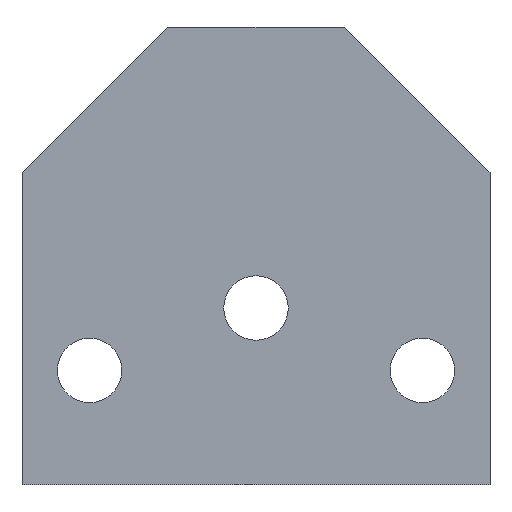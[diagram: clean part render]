
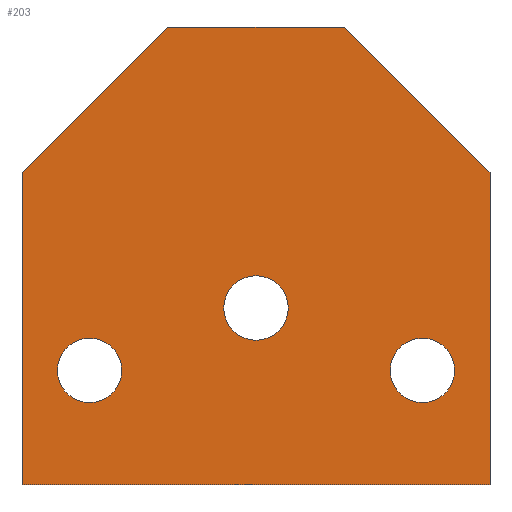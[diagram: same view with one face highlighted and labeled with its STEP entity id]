
A CAD part, front view. The second image highlights one B-rep face of the part: STEP entity #203.
In plain terms, the highlighted planar face has unit normal (0, -1, 0).
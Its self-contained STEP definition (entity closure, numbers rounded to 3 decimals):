
#2 = CARTESIAN_POINT ( 'NONE',  ( -22.5, 9., -2. ) ) ;
#4 = CIRCLE ( 'NONE', #290, 3.1 ) ;
#20 = CIRCLE ( 'NONE', #855, 3.1 ) ;
#22 = CARTESIAN_POINT ( 'NONE',  ( 16., 9., -21. ) ) ;
#28 = FACE_BOUND ( 'NONE', #115, .T. ) ;
#32 = VECTOR ( 'NONE', #183, 1000. ) ;
#35 = EDGE_CURVE ( 'NONE', #161, #248, #798, .T. ) ;
#57 = CARTESIAN_POINT ( 'NONE',  ( 0., 9., -32. ) ) ;
#58 = VERTEX_POINT ( 'NONE', #396 ) ;
#74 = CARTESIAN_POINT ( 'NONE',  ( 22.5, 9., -32. ) ) ;
#78 = DIRECTION ( 'NONE',  ( 0.707, 0., 0.707 ) ) ;
#79 = EDGE_CURVE ( 'NONE', #179, #928, #700, .T. ) ;
#86 = ORIENTED_EDGE ( 'NONE', *, *, #794, .F. ) ;
#91 = DIRECTION ( 'NONE',  ( 0., -1., 0. ) ) ;
#100 = EDGE_CURVE ( 'NONE', #511, #912, #364, .T. ) ;
#104 = CARTESIAN_POINT ( 'NONE',  ( -22.5, 9., -32. ) ) ;
#108 = ORIENTED_EDGE ( 'NONE', *, *, #187, .F. ) ;
#110 = ORIENTED_EDGE ( 'NONE', *, *, #873, .F. ) ;
#115 = EDGE_LOOP ( 'NONE', ( #601, #710 ) ) ;
#126 = LINE ( 'NONE', #104, #787 ) ;
#140 = ORIENTED_EDGE ( 'NONE', *, *, #769, .F. ) ;
#143 = VERTEX_POINT ( 'NONE', #920 ) ;
#146 = DIRECTION ( 'NONE',  ( 0., -1., 0. ) ) ;
#148 = FACE_BOUND ( 'NONE', #910, .T. ) ;
#160 = DIRECTION ( 'NONE',  ( 0., -1., 0. ) ) ;
#161 = VERTEX_POINT ( 'NONE', #74 ) ;
#163 = DIRECTION ( 'NONE',  ( 1., 0., 0. ) ) ;
#179 = VERTEX_POINT ( 'NONE', #649 ) ;
#183 = DIRECTION ( 'NONE',  ( 1., 0., 0. ) ) ;
#187 = EDGE_CURVE ( 'NONE', #248, #179, #126, .T. ) ;
#203 = ADVANCED_FACE ( 'NONE', ( #810, #148, #28, #722 ), #285, .F. ) ;
#215 = CARTESIAN_POINT ( 'NONE',  ( 0., 9., -15. ) ) ;
#237 = CARTESIAN_POINT ( 'NONE',  ( -16., 9., -21. ) ) ;
#244 = EDGE_CURVE ( 'NONE', #266, #143, #773, .T. ) ;
#248 = VERTEX_POINT ( 'NONE', #381 ) ;
#258 = DIRECTION ( 'NONE',  ( 0., -1., 0. ) ) ;
#266 = VERTEX_POINT ( 'NONE', #760 ) ;
#270 = AXIS2_PLACEMENT_3D ( 'NONE', #237, #395, #163 ) ;
#276 = EDGE_CURVE ( 'NONE', #956, #985, #277, .T. ) ;
#277 = CIRCLE ( 'NONE', #270, 3.1 ) ;
#285 = PLANE ( 'NONE',  #361 ) ;
#290 = AXIS2_PLACEMENT_3D ( 'NONE', #22, #258, #718 ) ;
#295 = ORIENTED_EDGE ( 'NONE', *, *, #817, .F. ) ;
#300 = CARTESIAN_POINT ( 'NONE',  ( 19.1, 9., -21. ) ) ;
#309 = CARTESIAN_POINT ( 'NONE',  ( 0., 9., -32. ) ) ;
#315 = AXIS2_PLACEMENT_3D ( 'NONE', #215, #146, #757 ) ;
#323 = CARTESIAN_POINT ( 'NONE',  ( 16., 9., -21. ) ) ;
#346 = DIRECTION ( 'NONE',  ( 1., 0., 0. ) ) ;
#361 = AXIS2_PLACEMENT_3D ( 'NONE', #57, #899, #913 ) ;
#364 = CIRCLE ( 'NONE', #888, 3.1 ) ;
#380 = CARTESIAN_POINT ( 'NONE',  ( -19.1, 9., -21. ) ) ;
#381 = CARTESIAN_POINT ( 'NONE',  ( -22.5, 9., -32. ) ) ;
#395 = DIRECTION ( 'NONE',  ( 0., -1., 0. ) ) ;
#396 = CARTESIAN_POINT ( 'NONE',  ( 8.5, 9., 12. ) ) ;
#417 = LINE ( 'NONE', #425, #32 ) ;
#425 = CARTESIAN_POINT ( 'NONE',  ( 0., 9., 12. ) ) ;
#448 = ORIENTED_EDGE ( 'NONE', *, *, #35, .F. ) ;
#468 = ORIENTED_EDGE ( 'NONE', *, *, #276, .F. ) ;
#493 = ORIENTED_EDGE ( 'NONE', *, *, #776, .F. ) ;
#505 = CARTESIAN_POINT ( 'NONE',  ( -16., 9., -21. ) ) ;
#511 = VERTEX_POINT ( 'NONE', #300 ) ;
#533 = VECTOR ( 'NONE', #660, 1000. ) ;
#536 = CARTESIAN_POINT ( 'NONE',  ( -12.9, 9., -21. ) ) ;
#546 = CARTESIAN_POINT ( 'NONE',  ( 12.9, 9., -21. ) ) ;
#601 = ORIENTED_EDGE ( 'NONE', *, *, #244, .F. ) ;
#602 = VECTOR ( 'NONE', #721, 1000. ) ;
#604 = AXIS2_PLACEMENT_3D ( 'NONE', #630, #624, #982 ) ;
#615 = LINE ( 'NONE', #947, #533 ) ;
#624 = DIRECTION ( 'NONE',  ( 0., -1., 0. ) ) ;
#630 = CARTESIAN_POINT ( 'NONE',  ( 0., 9., -15. ) ) ;
#631 = EDGE_CURVE ( 'NONE', #143, #266, #875, .T. ) ;
#632 = DIRECTION ( 'NONE',  ( 1., 0., 0. ) ) ;
#638 = DIRECTION ( 'NONE',  ( -1., 0., 0. ) ) ;
#649 = CARTESIAN_POINT ( 'NONE',  ( -22.5, 9., -2. ) ) ;
#660 = DIRECTION ( 'NONE',  ( 0., 0., -1. ) ) ;
#700 = LINE ( 'NONE', #2, #978 ) ;
#709 = ORIENTED_EDGE ( 'NONE', *, *, #79, .F. ) ;
#710 = ORIENTED_EDGE ( 'NONE', *, *, #631, .F. ) ;
#711 = EDGE_LOOP ( 'NONE', ( #108, #448, #110, #86, #295, #709 ) ) ;
#718 = DIRECTION ( 'NONE',  ( 1., 0., 0. ) ) ;
#721 = DIRECTION ( 'NONE',  ( 0.707, 0., -0.707 ) ) ;
#722 = FACE_BOUND ( 'NONE', #858, .T. ) ;
#730 = CARTESIAN_POINT ( 'NONE',  ( 22.5, 9., -2. ) ) ;
#757 = DIRECTION ( 'NONE',  ( 1., 0., 0. ) ) ;
#760 = CARTESIAN_POINT ( 'NONE',  ( 3.1, 9., -15. ) ) ;
#769 = EDGE_CURVE ( 'NONE', #912, #511, #4, .T. ) ;
#773 = CIRCLE ( 'NONE', #604, 3.1 ) ;
#776 = EDGE_CURVE ( 'NONE', #985, #956, #20, .T. ) ;
#787 = VECTOR ( 'NONE', #859, 1000. ) ;
#794 = EDGE_CURVE ( 'NONE', #58, #901, #945, .T. ) ;
#798 = LINE ( 'NONE', #309, #922 ) ;
#810 = FACE_OUTER_BOUND ( 'NONE', #711, .T. ) ;
#817 = EDGE_CURVE ( 'NONE', #928, #58, #417, .T. ) ;
#855 = AXIS2_PLACEMENT_3D ( 'NONE', #505, #91, #346 ) ;
#858 = EDGE_LOOP ( 'NONE', ( #493, #468 ) ) ;
#859 = DIRECTION ( 'NONE',  ( 0., 0., 1. ) ) ;
#865 = CARTESIAN_POINT ( 'NONE',  ( 8.5, 9., 12. ) ) ;
#873 = EDGE_CURVE ( 'NONE', #901, #161, #615, .T. ) ;
#875 = CIRCLE ( 'NONE', #315, 3.1 ) ;
#888 = AXIS2_PLACEMENT_3D ( 'NONE', #323, #160, #632 ) ;
#899 = DIRECTION ( 'NONE',  ( 0., 1., 0. ) ) ;
#901 = VERTEX_POINT ( 'NONE', #730 ) ;
#910 = EDGE_LOOP ( 'NONE', ( #968, #140 ) ) ;
#912 = VERTEX_POINT ( 'NONE', #546 ) ;
#913 = DIRECTION ( 'NONE',  ( -1., 0., 0. ) ) ;
#920 = CARTESIAN_POINT ( 'NONE',  ( -3.1, 9., -15. ) ) ;
#922 = VECTOR ( 'NONE', #638, 1000. ) ;
#928 = VERTEX_POINT ( 'NONE', #974 ) ;
#945 = LINE ( 'NONE', #865, #602 ) ;
#947 = CARTESIAN_POINT ( 'NONE',  ( 22.5, 9., -32. ) ) ;
#956 = VERTEX_POINT ( 'NONE', #380 ) ;
#968 = ORIENTED_EDGE ( 'NONE', *, *, #100, .F. ) ;
#974 = CARTESIAN_POINT ( 'NONE',  ( -8.5, 9., 12. ) ) ;
#978 = VECTOR ( 'NONE', #78, 1000. ) ;
#982 = DIRECTION ( 'NONE',  ( 1., 0., 0. ) ) ;
#985 = VERTEX_POINT ( 'NONE', #536 ) ;
